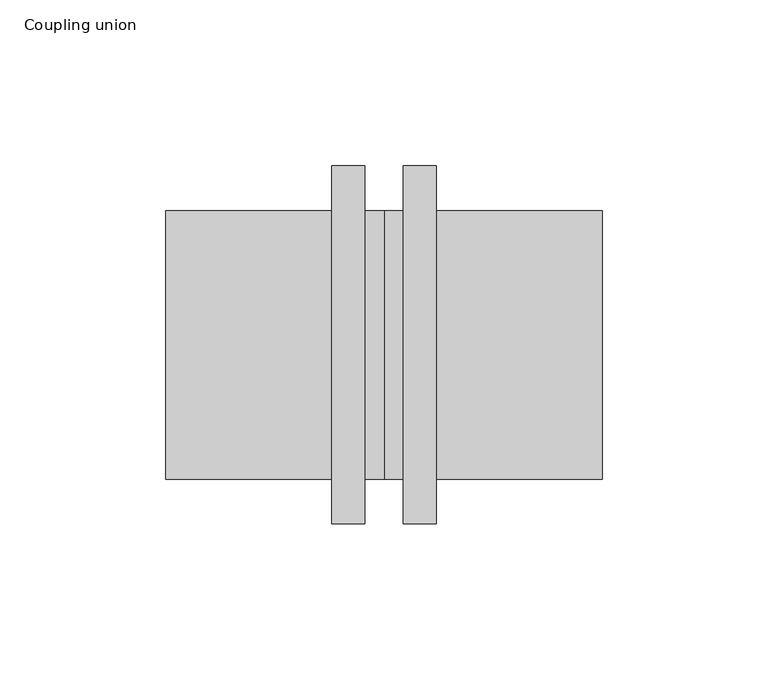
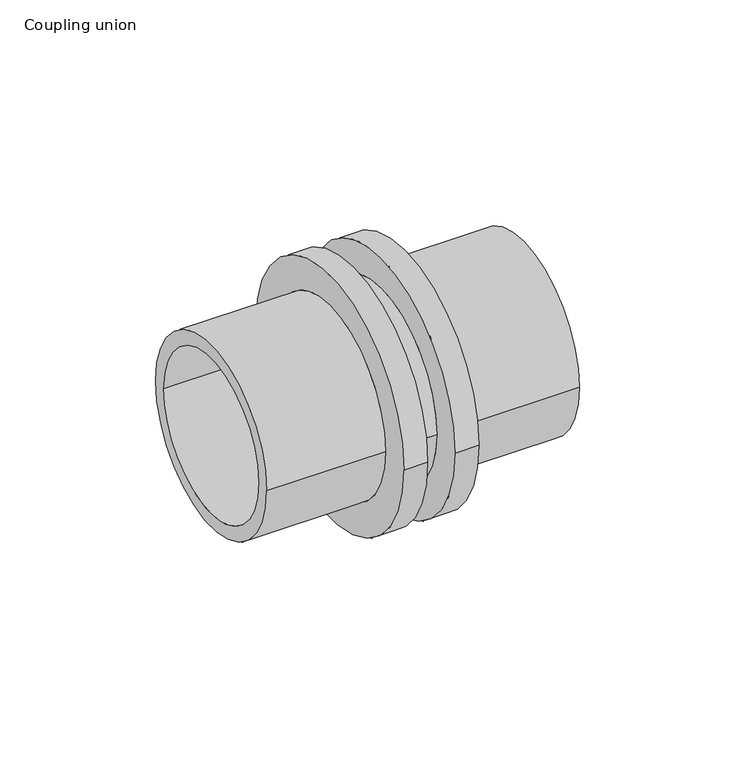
"""IFC4 building model written with IfcOpenShell, lengths in millimetres: pipe fitting geometry, Coupling union : C EQ SDR11 RX."""

from ifc_helpers import new_model, si_unit, frame, origin, place, context, project, spatial, polyline, circle_curve, source, transform, mapped, element, save
from ifc_brep_helpers import plane_surface, cylinder_surface, revolved_surface, advanced_brep


def coupling_union_130b633a(model_context):
    return source(origin(), model_context, "Body", "AdvancedBrep", [
        advanced_brep(
        [(15.8, 54.0, 0.0), (15.8, -54.0, 0.0), (5.8, -54.0, 0.0), (5.8, 54.0, 0.0), (65.8, 40.5, 0.0), (65.8, -40.5, 0.0), (15.8, -40.5, 0.0), (15.8, 40.5, 0.0), (-65.8, 34.5, 0.0), (-65.8, -34.5, 0.0), (65.8, -34.5, 0.0), (65.8, 34.5, 0.0), (-15.8, 40.5, 0.0), (-15.8, -40.5, 0.0), (-65.8, -40.5, 0.0), (-65.8, 40.5, 0.0), (-5.8, 54.0, 0.0), (-5.8, -54.0, 0.0), (-15.8, -54.0, 0.0), (-15.8, 54.0, 0.0), (0.0, 40.5, 0.0), (0.0, -40.5, 0.0), (-5.8, -40.5, 0.0), (-5.8, 40.5, 0.0), (5.8, 40.5, 0.0), (5.8, -40.5, 0.0)],
        [
            (0, 1, circle_curve(frame((15.8, 0.0, 0.0), z_axis=(-1.0, 0.0, 0.0), x_axis=(0.0, -1.0, 0.0)), 54.0)),
            (1, 2),
            (2, 3, circle_curve(frame((5.8, 0.0, 0.0), z_axis=(1.0, 0.0, 0.0), x_axis=(0.0, -1.0, 0.0)), 54.0)),
            (3, 0),
            (4, 5, circle_curve(frame((65.8, 0.0, 0.0), z_axis=(-1.0, 0.0, 0.0), x_axis=(0.0, -1.0, 0.0)), 40.5)),
            (5, 6),
            (6, 7, circle_curve(frame((15.8, 0.0, 0.0), z_axis=(1.0, 0.0, 0.0), x_axis=(0.0, -1.0, 0.0)), 40.5)),
            (7, 4),
            (8, 9, circle_curve(frame((-65.8, 0.0, 0.0), z_axis=(-1.0, 0.0, 0.0), x_axis=(0.0, -1.0, 0.0)), 34.5)),
            (9, 10),
            (10, 11, circle_curve(frame((65.8, 0.0, 0.0), z_axis=(1.0, 0.0, 0.0), x_axis=(0.0, -1.0, 0.0)), 34.5)),
            (11, 8),
            (12, 13, circle_curve(frame((-15.8, 0.0, 0.0), z_axis=(-1.0, 0.0, 0.0), x_axis=(0.0, -1.0, 0.0)), 40.5)),
            (13, 14),
            (14, 15, circle_curve(frame((-65.8, 0.0, 0.0), z_axis=(1.0, 0.0, 0.0), x_axis=(0.0, -1.0, 0.0)), 40.5)),
            (15, 12),
            (16, 17, circle_curve(frame((-5.8, 0.0, 0.0), z_axis=(-1.0, 0.0, 0.0), x_axis=(0.0, -1.0, 0.0)), 54.0)),
            (17, 18),
            (18, 19, circle_curve(frame((-15.8, 0.0, 0.0), z_axis=(1.0, 0.0, 0.0), x_axis=(0.0, -1.0, 0.0)), 54.0)),
            (19, 16),
            (20, 21, circle_curve(frame((0.0, 0.0, 0.0), z_axis=(-1.0, 0.0, 0.0), x_axis=(0.0, -1.0, 0.0)), 40.5)),
            (21, 22),
            (22, 23, circle_curve(frame((-5.8, 0.0, 0.0), z_axis=(1.0, 0.0, 0.0), x_axis=(0.0, -1.0, 0.0)), 40.5)),
            (23, 20),
            (24, 25, circle_curve(frame((5.8, 0.0, 0.0), z_axis=(-1.0, 0.0, 0.0), x_axis=(0.0, -1.0, 0.0)), 40.5)),
            (25, 21),
            (20, 24),
            (1, 0, circle_curve(frame((15.8, 0.0, 0.0), z_axis=(-1.0, 0.0, 0.0), x_axis=(0.0, 1.0, 0.0)), 54.0)),
            (3, 2, circle_curve(frame((5.8, 0.0, 0.0), z_axis=(1.0, 0.0, 0.0), x_axis=(0.0, 1.0, 0.0)), 54.0)),
            (6, 7, circle_curve(frame((15.8, 0.0, 0.0), z_axis=(-1.0, 0.0, 0.0), x_axis=(0.0, 1.0, 0.0)), 40.5)),
            (5, 4, circle_curve(frame((65.8, 0.0, 0.0), z_axis=(-1.0, 0.0, 0.0), x_axis=(0.0, 1.0, 0.0)), 40.5)),
            (10, 11, circle_curve(frame((65.8, 0.0, 0.0), z_axis=(-1.0, 0.0, 0.0), x_axis=(0.0, 1.0, 0.0)), 34.5)),
            (9, 8, circle_curve(frame((-65.8, 0.0, 0.0), z_axis=(-1.0, 0.0, 0.0), x_axis=(0.0, 1.0, 0.0)), 34.5)),
            (14, 15, circle_curve(frame((-65.8, 0.0, 0.0), z_axis=(-1.0, 0.0, 0.0), x_axis=(0.0, 1.0, 0.0)), 40.5)),
            (13, 12, circle_curve(frame((-15.8, 0.0, 0.0), z_axis=(-1.0, 0.0, 0.0), x_axis=(0.0, 1.0, 0.0)), 40.5)),
            (18, 19, circle_curve(frame((-15.8, 0.0, 0.0), z_axis=(-1.0, 0.0, 0.0), x_axis=(0.0, 1.0, 0.0)), 54.0)),
            (17, 16, circle_curve(frame((-5.8, 0.0, 0.0), z_axis=(-1.0, 0.0, 0.0), x_axis=(0.0, 1.0, 0.0)), 54.0)),
            (22, 23, circle_curve(frame((-5.8, 0.0, 0.0), z_axis=(-1.0, 0.0, 0.0), x_axis=(0.0, 1.0, 0.0)), 40.5)),
            (21, 20, circle_curve(frame((0.0, 0.0, 0.0), z_axis=(-1.0, 0.0, 0.0), x_axis=(0.0, 1.0, 0.0)), 40.5)),
            (25, 24, circle_curve(frame((5.8, 0.0, 0.0), z_axis=(-1.0, 0.0, 0.0), x_axis=(0.0, 1.0, 0.0)), 40.5)),
        ],
        [
            cylinder_surface(frame((0.0, 0.0, 0.0), z_axis=(1.0, 0.0, 0.0), x_axis=(0.0, -1.0, 0.0)), 54.0),
            cylinder_surface(frame((0.0, 0.0, 0.0), z_axis=(1.0, 0.0, 0.0), x_axis=(0.0, -1.0, 0.0)), 40.5),
            revolved_surface(polyline([(65.8, -34.5, 0.0), (-65.8, -34.5, 0.0)]), (0.0, 0.0, 0.0), (1.0, 0.0, 0.0)),
            cylinder_surface(frame((0.0, 0.0, 0.0), z_axis=(1.0, 0.0, 0.0), x_axis=(0.0, 1.0, 0.0)), 54.0),
            plane_surface(frame((15.8, 0.0, 0.0), z_axis=(1.0, 0.0, 0.0), x_axis=(0.0, 1.0, 0.0))),
            cylinder_surface(frame((0.0, 0.0, 0.0), z_axis=(1.0, 0.0, 0.0), x_axis=(0.0, 1.0, 0.0)), 40.5),
            plane_surface(frame((65.8, 0.0, 0.0), z_axis=(1.0, 0.0, 0.0), x_axis=(0.0, 1.0, 0.0))),
            revolved_surface(polyline([(65.8, 34.5, 0.0), (-65.8, 34.5, 0.0)]), (0.0, 0.0, 0.0), (1.0, 0.0, 0.0)),
            plane_surface(frame((-65.8, 0.0, 0.0), z_axis=(-1.0, 0.0, 0.0), x_axis=(0.0, 1.0, 0.0))),
            plane_surface(frame((-15.8, 0.0, 0.0), z_axis=(-1.0, 0.0, 0.0), x_axis=(0.0, 1.0, 0.0))),
            plane_surface(frame((-5.8, 0.0, 0.0), z_axis=(1.0, 0.0, 0.0), x_axis=(0.0, 1.0, 0.0))),
            plane_surface(frame((5.8, 0.0, 0.0), z_axis=(-1.0, 0.0, 0.0), x_axis=(0.0, 1.0, 0.0))),
        ],
        [
            (0, [[1, 2, 3, 4]]),
            (1, [[5, 6, 7, 8]]),
            (2, [[9, 10, 11, 12]]),
            (1, [[13, 14, 15, 16]]),
            (0, [[17, 18, 19, 20]]),
            (1, [[21, 22, 23, 24]]),
            (1, [[25, 26, -21, 27]]),
            (3, [[28, -4, 29, -2]]),
            (4, [[-28, -1], [30, -7]]),
            (5, [[31, -8, -30, -6]]),
            (6, [[-31, -5], [32, -11]]),
            (7, [[33, -12, -32, -10]]),
            (8, [[34, -15], [-33, -9]]),
            (5, [[35, -16, -34, -14]]),
            (9, [[36, -19], [-35, -13]]),
            (3, [[37, -20, -36, -18]]),
            (10, [[-37, -17], [38, -23]]),
            (5, [[39, -24, -38, -22]]),
            (5, [[40, -27, -39, -26]]),
            (11, [[-29, -3], [-40, -25]]),
        ],
    ),
    ])


if __name__ == "__main__":
    model = new_model("IFC4")
    model_context = context("Model", 3, world=origin())
    ifc_project = project(units=[si_unit("LENGTHUNIT", "METRE", prefix="MILLI")], contexts=[model_context])
    site = spatial("IfcSite", under=ifc_project)
    building = spatial("IfcBuilding", under=site)
    placement = place(None, origin())
    coupling_union_shape = coupling_union_130b633a(model_context)
    element("IfcPipeFitting", 1, ObjectType="Coupling union : C EQ SDR11 RX", at=placement, inside=building, context=model_context, shape_type="MappedRepresentation", body=[
        mapped(coupling_union_shape, transform((0.0, 0.0, 0.0), x_axis=(1.0, 0.0, 0.0), y_axis=(0.0, 1.0, 0.0), z_axis=(0.0, 0.0, 1.0))),
    ])
    save(model, "model.ifc")
